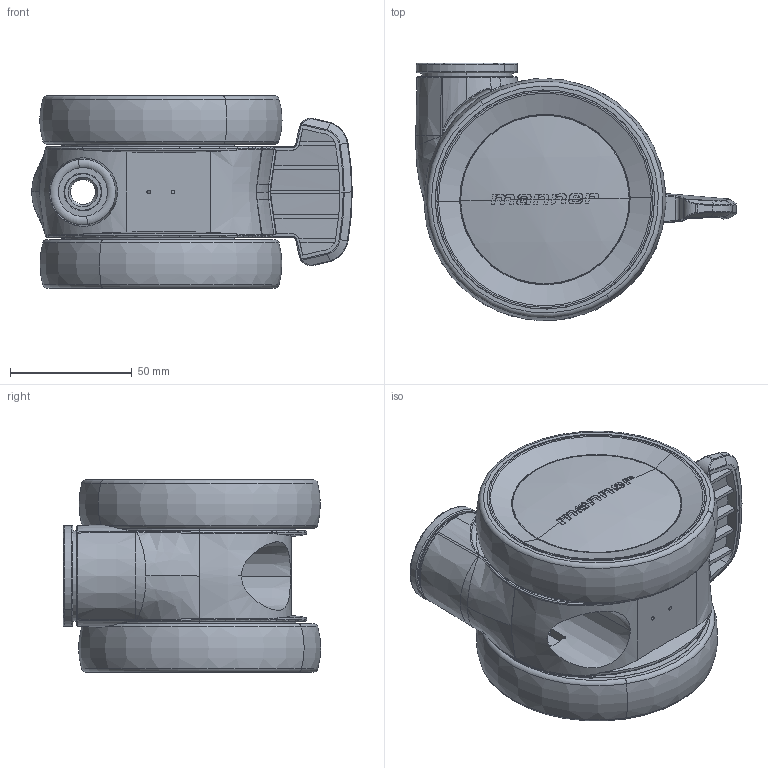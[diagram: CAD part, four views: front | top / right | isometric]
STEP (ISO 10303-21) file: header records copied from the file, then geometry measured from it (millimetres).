
FILE_DESCRIPTION (( 'STEP AP203' ), '1' );
FILE_NAME ('TW_J_100_low.STEP', '2019-10-11T11:50:33', ( '' ), ( '' ), 'SwSTEP 2.0', 'SolidWorks 2017', '' );
FILE_SCHEMA (( 'CONFIG_CONTROL_DESIGN' ));
Length unit declared in the file: millimetre
Products named in the file (1): TW_J_100_low
Bounding box: 131.52 x 105.69 x 79 mm (x, y, z)
Volume: 316452.7 mm3; surface area: 211809.4 mm2
Topology: 17 solids, 20 shells, 3477 faces, 9286 edges, 5806 vertices
Faces by surface type: plane 1526, cylinder 1048, bspline 332, torus 278, sphere 175, cone 118
Entity records: 123771 total; most frequent: CARTESIAN_POINT 41358, ORIENTED_EDGE 18426, DIRECTION 16278, EDGE_CURVE 9213, AXIS2_PLACEMENT_3D 6044, VERTEX_POINT 5800, VECTOR 4190, LINE 4190
